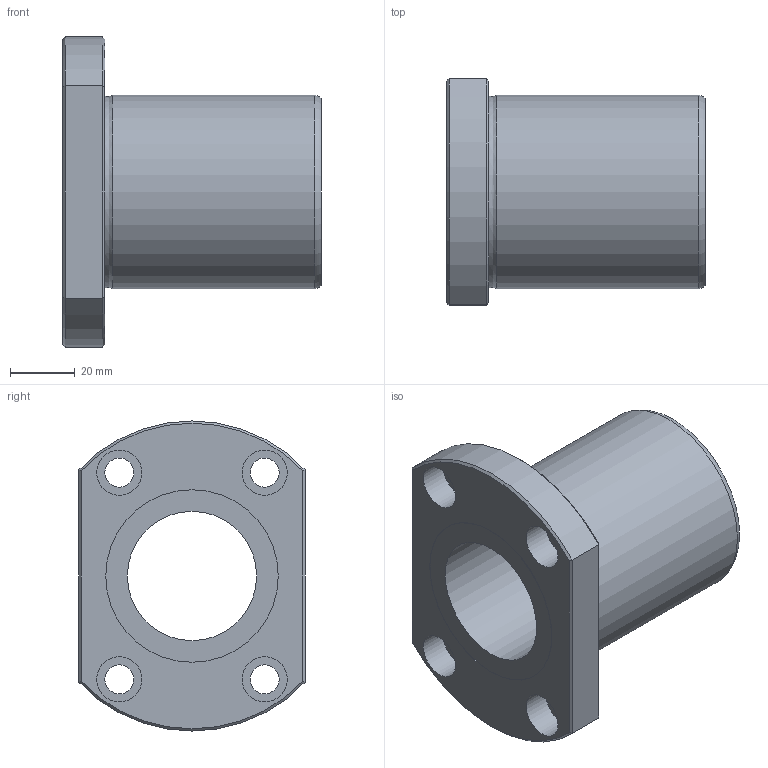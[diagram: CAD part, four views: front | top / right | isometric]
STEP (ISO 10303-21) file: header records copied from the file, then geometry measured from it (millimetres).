
FILE_DESCRIPTION((''),'2;1');
FILE_NAME('D:\製品 (図面)\カタログ用3D\リニアベアリング関連\STEP形式\LFT\LFT40B.stp','2010-06-04T09:20:04',('Tsuchiya'),(''),'Autodesk Inventor 10','Autodesk Inventor 10','');
FILE_SCHEMA(('AUTOMOTIVE_DESIGN { 1 0 10303 214 1 1 1 1 }'));
Length unit declared in the file: millimetre
Products named in the file (1): LFT40B
Bounding box: 80 x 70 x 96 mm (x, y, z)
Volume: 160634.5 mm3; surface area: 37261.3 mm2
Topology: 1 solids, 1 shells, 35 faces, 68 edges, 42 vertices
Faces by surface type: plane 15, cylinder 14, cone 4, torus 1, bspline 1
Full cylindrical faces by diameter (mm): 9 x4, 14 x4, 40 x1, 53.4 x2, 60 x1
Entity records: 935 total; most frequent: CARTESIAN_POINT 218, DIRECTION 150, ORIENTED_EDGE 108, AXIS2_PLACEMENT_3D 69, EDGE_LOOP 66, EDGE_CURVE 54, VERTEX_POINT 42, FACE_OUTER_BOUND 35
